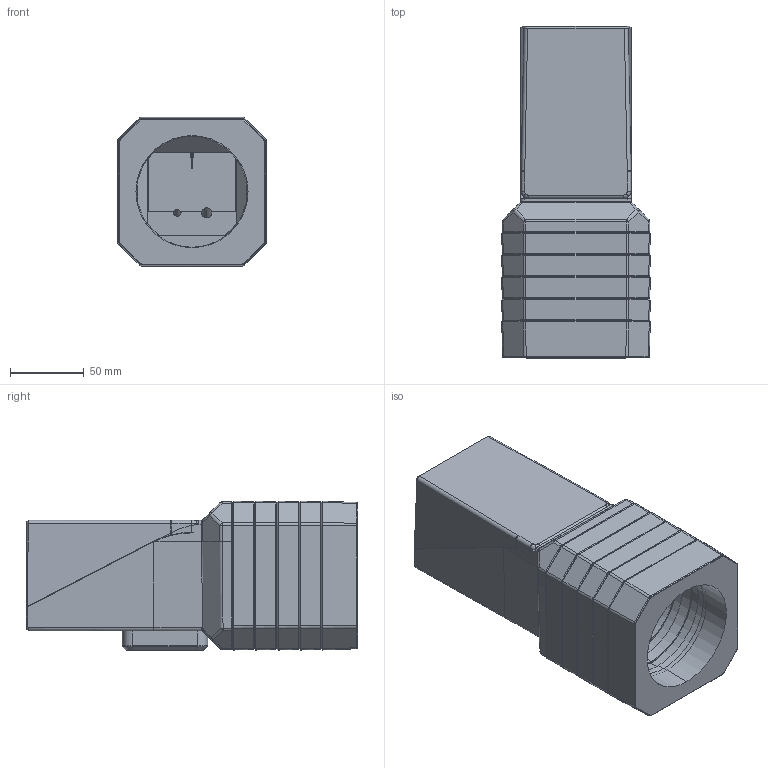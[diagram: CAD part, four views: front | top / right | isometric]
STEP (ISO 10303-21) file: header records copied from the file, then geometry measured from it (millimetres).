
FILE_DESCRIPTION (( 'STEP AP214' ), '1' );
FILE_NAME ('GET_CAM_XL_Housing_Outer_Topassy_4_2022-11-11.STEP', '2022-11-11T14:47:40', ( '' ), ( '' ), 'SwSTEP 2.0', 'SolidWorks 2020', '' );
FILE_SCHEMA (( 'AUTOMOTIVE_DESIGN' ));
Length unit declared in the file: millimetre
Products named in the file (5): GET_CAM_XL_Housing_Cap_Outer_IM; GET_CAM_XL_Housing_Outer_Topassy_4_2022-11-11; GET_CAM_XL_Housing_FrontRing_Outer_IM; GET_CAM_XL_Housing_Main_Outer_IM; GET_CAM_XL_ModuleRing_Outer_IM
Assembly tree (7 placements, depth 2):
  GET_CAM_XL_Housing_Outer_Topassy_4_2022-11-11
    GET_CAM_XL_Housing_Main_Outer_IM
    GET_CAM_XL_Housing_Cap_Outer_IM
    GET_CAM_XL_ModuleRing_Outer_IM  x4
    GET_CAM_XL_Housing_FrontRing_Outer_IM
Bounding box: 100.98 x 225.2 x 101.49 mm (x, y, z)
Volume: 756286.1 mm3; surface area: 217860.4 mm2
Topology: 7 solids, 7 shells, 690 faces, 1593 edges, 942 vertices
Faces by surface type: plane 250, cylinder 192, bspline 142, torus 54, cone 40, sphere 12
Entity records: 16294 total; most frequent: CARTESIAN_POINT 6056, ORIENTED_EDGE 2274, DIRECTION 1883, EDGE_CURVE 1137, AXIS2_PLACEMENT_3D 701, VERTEX_POINT 678, EDGE_LOOP 505, FACE_OUTER_BOUND 483
